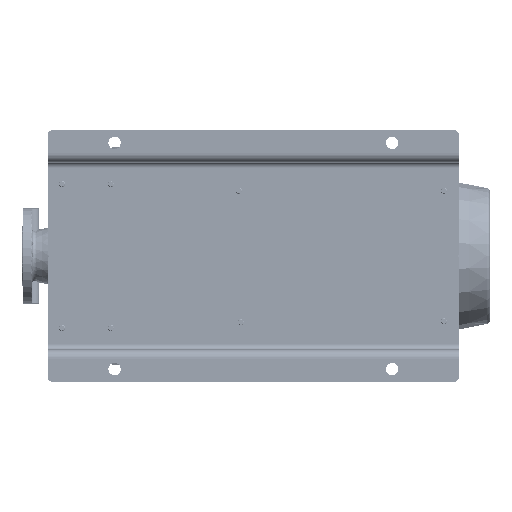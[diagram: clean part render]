
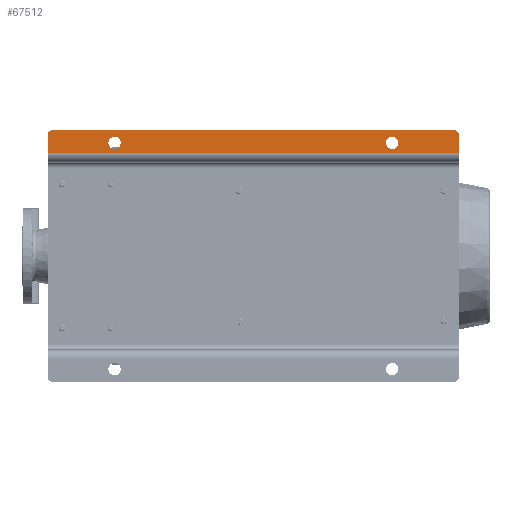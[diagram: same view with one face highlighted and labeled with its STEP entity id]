
A CAD part, front view. The second image highlights one B-rep face of the part: STEP entity #67512.
In plain terms, the highlighted planar face has unit normal (0, -1, 0).
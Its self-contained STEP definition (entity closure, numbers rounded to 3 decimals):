
#3089 = CARTESIAN_POINT ( 'NONE',  ( 477., 0., -670. ) ) ;
#5274 = CIRCLE ( 'NONE', #262970, 12. ) ;
#6831 = DIRECTION ( 'NONE',  ( 0., 1., 0. ) ) ;
#7100 = DIRECTION ( 'NONE',  ( 0., -1., 0. ) ) ;
#11012 = ORIENTED_EDGE ( 'NONE', *, *, #112855, .T. ) ;
#18839 = DIRECTION ( 'NONE',  ( 0., 0., -1. ) ) ;
#24119 = CARTESIAN_POINT ( 'NONE',  ( 490., 0., -10. ) ) ;
#25216 = VECTOR ( 'NONE', #36374, 1000. ) ;
#25797 = CARTESIAN_POINT ( 'NONE',  ( 465., 0., -130. ) ) ;
#27711 = ORIENTED_EDGE ( 'NONE', *, *, #231545, .T. ) ;
#32930 = AXIS2_PLACEMENT_3D ( 'NONE', #86970, #242621, #174021 ) ;
#36327 = CIRCLE ( 'NONE', #158227, 12. ) ;
#36374 = DIRECTION ( 'NONE',  ( 0., 0., -1. ) ) ;
#42393 = DIRECTION ( 'NONE',  ( 0., 0., 1. ) ) ;
#48662 = DIRECTION ( 'NONE',  ( 0., 1., 0. ) ) ;
#49897 = CIRCLE ( 'NONE', #88865, 12. ) ;
#57792 = LINE ( 'NONE', #234445, #70254 ) ;
#62027 = VERTEX_POINT ( 'NONE', #212520 ) ;
#62129 = CARTESIAN_POINT ( 'NONE',  ( 453., 0., -130. ) ) ;
#62704 = EDGE_CURVE ( 'NONE', #229685, #103316, #287599, .T. ) ;
#63070 = DIRECTION ( 'NONE',  ( 0., -1., 0. ) ) ;
#67512 = ADVANCED_FACE ( 'NONE', ( #296265, #250491, #294786 ), #226190, .T. ) ;
#70254 = VECTOR ( 'NONE', #42393, 1000. ) ;
#72172 = VECTOR ( 'NONE', #289110, 1000. ) ;
#78755 = CARTESIAN_POINT ( 'NONE',  ( 427., 0., 0. ) ) ;
#85430 = CIRCLE ( 'NONE', #275455, 12. ) ;
#86475 = CIRCLE ( 'NONE', #32930, 10. ) ;
#86970 = CARTESIAN_POINT ( 'NONE',  ( 480., 0., -10. ) ) ;
#87253 = EDGE_CURVE ( 'NONE', #62027, #208151, #57792, .T. ) ;
#88865 = AXIS2_PLACEMENT_3D ( 'NONE', #261257, #6831, #192671 ) ;
#98684 = ORIENTED_EDGE ( 'NONE', *, *, #149247, .T. ) ;
#101936 = CARTESIAN_POINT ( 'NONE',  ( 445., 0., -800. ) ) ;
#103316 = VERTEX_POINT ( 'NONE', #197893 ) ;
#106670 = CARTESIAN_POINT ( 'NONE',  ( 465., 0., -670. ) ) ;
#112124 = CARTESIAN_POINT ( 'NONE',  ( 453., 0., -670. ) ) ;
#112855 = EDGE_CURVE ( 'NONE', #287456, #184091, #225906, .T. ) ;
#115457 = EDGE_LOOP ( 'NONE', ( #156183, #135857, #11012, #212022, #273807, #27711 ) ) ;
#115786 = ORIENTED_EDGE ( 'NONE', *, *, #246410, .T. ) ;
#121136 = EDGE_CURVE ( 'NONE', #184091, #62027, #232889, .T. ) ;
#121257 = DIRECTION ( 'NONE',  ( 0., 0., -1. ) ) ;
#131010 = DIRECTION ( 'NONE',  ( 0., 0., -1. ) ) ;
#135591 = DIRECTION ( 'NONE',  ( 0., 0., -1. ) ) ;
#135857 = ORIENTED_EDGE ( 'NONE', *, *, #243446, .T. ) ;
#138175 = EDGE_CURVE ( 'NONE', #213823, #228061, #36327, .T. ) ;
#141861 = CARTESIAN_POINT ( 'NONE',  ( 477., 0., -130. ) ) ;
#145717 = CARTESIAN_POINT ( 'NONE',  ( 480., 0., -790. ) ) ;
#149247 = EDGE_CURVE ( 'NONE', #228061, #213823, #49897, .T. ) ;
#150950 = VECTOR ( 'NONE', #152752, 1000. ) ;
#152752 = DIRECTION ( 'NONE',  ( 1., 0., 0. ) ) ;
#156183 = ORIENTED_EDGE ( 'NONE', *, *, #62704, .F. ) ;
#158177 = CARTESIAN_POINT ( 'NONE',  ( 480., 0., -800. ) ) ;
#158227 = AXIS2_PLACEMENT_3D ( 'NONE', #25797, #48662, #135591 ) ;
#172537 = VERTEX_POINT ( 'NONE', #3089 ) ;
#174021 = DIRECTION ( 'NONE',  ( 0., 0., -1. ) ) ;
#183967 = DIRECTION ( 'NONE',  ( 0., 0., -1. ) ) ;
#184091 = VERTEX_POINT ( 'NONE', #158177 ) ;
#185754 = CARTESIAN_POINT ( 'NONE',  ( 445., 0., -800. ) ) ;
#189909 = VERTEX_POINT ( 'NONE', #112124 ) ;
#192671 = DIRECTION ( 'NONE',  ( 0., 0., -1. ) ) ;
#195344 = EDGE_CURVE ( 'NONE', #172537, #189909, #85430, .T. ) ;
#197893 = CARTESIAN_POINT ( 'NONE',  ( 480., 0., 0. ) ) ;
#198977 = AXIS2_PLACEMENT_3D ( 'NONE', #268861, #63070, #18839 ) ;
#199499 = EDGE_LOOP ( 'NONE', ( #115786, #211215 ) ) ;
#202945 = CARTESIAN_POINT ( 'NONE',  ( 427., 0., -800. ) ) ;
#208151 = VERTEX_POINT ( 'NONE', #24119 ) ;
#211215 = ORIENTED_EDGE ( 'NONE', *, *, #195344, .T. ) ;
#212022 = ORIENTED_EDGE ( 'NONE', *, *, #121136, .T. ) ;
#212520 = CARTESIAN_POINT ( 'NONE',  ( 490., 0., -790. ) ) ;
#213823 = VERTEX_POINT ( 'NONE', #62129 ) ;
#224107 = DIRECTION ( 'NONE',  ( 0., 1., 0. ) ) ;
#225906 = LINE ( 'NONE', #202945, #150950 ) ;
#226190 = PLANE ( 'NONE',  #198977 ) ;
#228061 = VERTEX_POINT ( 'NONE', #141861 ) ;
#229685 = VERTEX_POINT ( 'NONE', #299209 ) ;
#231545 = EDGE_CURVE ( 'NONE', #208151, #103316, #86475, .T. ) ;
#232889 = CIRCLE ( 'NONE', #262683, 10. ) ;
#234445 = CARTESIAN_POINT ( 'NONE',  ( 490., 0., -800. ) ) ;
#240944 = EDGE_LOOP ( 'NONE', ( #299139, #98684 ) ) ;
#242621 = DIRECTION ( 'NONE',  ( 0., -1., 0. ) ) ;
#243446 = EDGE_CURVE ( 'NONE', #229685, #287456, #265100, .T. ) ;
#246410 = EDGE_CURVE ( 'NONE', #189909, #172537, #5274, .T. ) ;
#250491 = FACE_BOUND ( 'NONE', #199499, .T. ) ;
#254012 = CARTESIAN_POINT ( 'NONE',  ( 465., 0., -670. ) ) ;
#261257 = CARTESIAN_POINT ( 'NONE',  ( 465., 0., -130. ) ) ;
#262683 = AXIS2_PLACEMENT_3D ( 'NONE', #145717, #7100, #121257 ) ;
#262970 = AXIS2_PLACEMENT_3D ( 'NONE', #254012, #301285, #183967 ) ;
#265100 = LINE ( 'NONE', #101936, #25216 ) ;
#268861 = CARTESIAN_POINT ( 'NONE',  ( 427., 0., -800. ) ) ;
#273807 = ORIENTED_EDGE ( 'NONE', *, *, #87253, .T. ) ;
#275455 = AXIS2_PLACEMENT_3D ( 'NONE', #106670, #224107, #131010 ) ;
#287456 = VERTEX_POINT ( 'NONE', #185754 ) ;
#287599 = LINE ( 'NONE', #78755, #72172 ) ;
#289110 = DIRECTION ( 'NONE',  ( 1., 0., 0. ) ) ;
#294786 = FACE_OUTER_BOUND ( 'NONE', #115457, .T. ) ;
#296265 = FACE_BOUND ( 'NONE', #240944, .T. ) ;
#299139 = ORIENTED_EDGE ( 'NONE', *, *, #138175, .T. ) ;
#299209 = CARTESIAN_POINT ( 'NONE',  ( 445., 0., 0. ) ) ;
#301285 = DIRECTION ( 'NONE',  ( 0., 1., 0. ) ) ;
